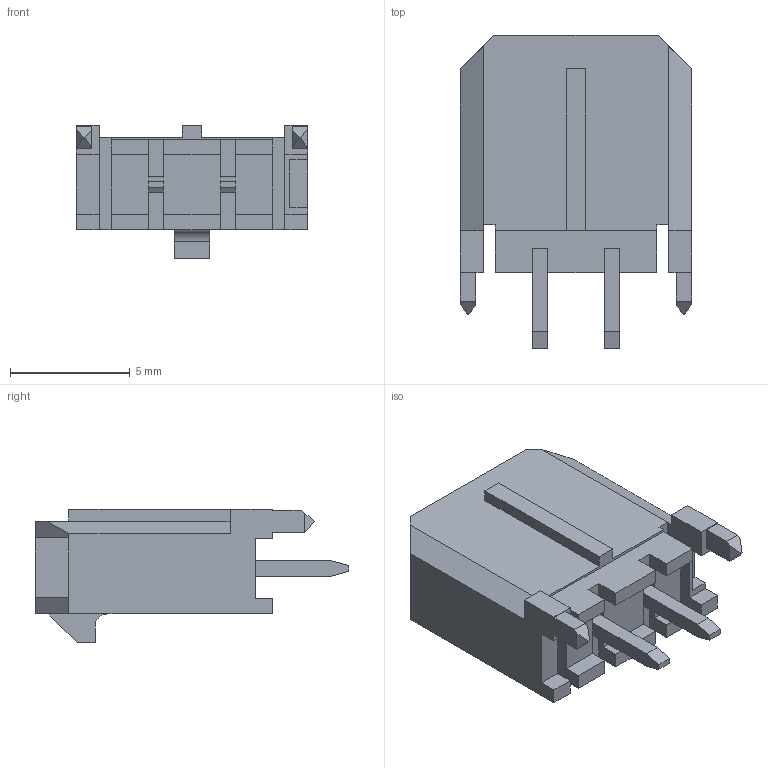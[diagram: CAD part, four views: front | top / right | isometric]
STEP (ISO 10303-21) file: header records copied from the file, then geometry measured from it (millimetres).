
FILE_DESCRIPTION((''),'2;1');
FILE_NAME('436500227','2010-11-19T',('gga'),(''),'PRO/ENGINEER BY PARAMETRIC TECHNOLOGY CORPORATION, 2003451','PRO/ENGINEER BY PARAMETRIC TECHNOLOGY CORPORATION, 2003451','');
FILE_SCHEMA(('CONFIG_CONTROL_DESIGN'));
Length unit declared in the file: millimetre
Products named in the file (1): 436500227
Bounding box: 9.65 x 13.08 x 5.57 mm (x, y, z)
Volume: 260.3 mm3; surface area: 564.4 mm2
Topology: 1 solids, 1 shells, 131 faces, 350 edges, 226 vertices
Faces by surface type: plane 130, cylinder 1
Entity records: 4008 total; most frequent: CARTESIAN_POINT 707, ORIENTED_EDGE 700, DIRECTION 614, EDGE_CURVE 350, VECTOR 348, LINE 348, VERTEX_POINT 226, EDGE_LOOP 136
